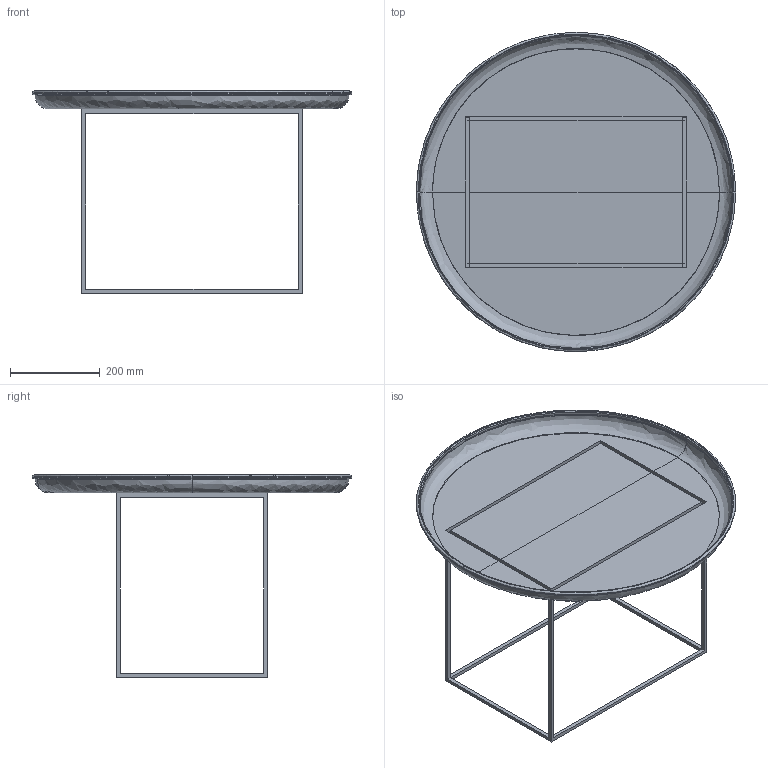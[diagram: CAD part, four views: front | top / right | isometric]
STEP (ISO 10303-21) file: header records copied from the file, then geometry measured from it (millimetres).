
FILE_DESCRIPTION(/* description */ (''),/* implementation_level */ '2;1');
FILE_NAME(/* name */ 'Duke-Coffee-Table_Medium_NORR11',/* time_stamp */ '2024-09-27T11:18:10+02:00',/* author */ (''),/* organization */ (''),/* preprocessor_version */ 'ST-DEVELOPER v19.2',/* originating_system */ 'Rhino 8.11',/* authorisation */ '');
FILE_SCHEMA (('CONFIG_CONTROL_DESIGN'));
Length unit declared in the file: millimetre
Products named in the file (1): Document
Bounding box: 711.02 x 711.02 x 449.87 mm (x, y, z)
Surface area: 715944.2 mm2 (no closed solid volume)
Topology: 0 solids, 2 shells, 55 faces, 134 edges, 76 vertices
Faces by surface type: plane 35, bspline 12, cylinder 8
Entity records: 2893 total; most frequent: CARTESIAN_POINT 1785, ORIENTED_EDGE 254, EDGE_CURVE 134, B_SPLINE_CURVE_WITH_KNOTS 106, DIRECTION 103, VERTEX_POINT 76, AXIS2_PLACEMENT_3D 73, EDGE_LOOP 60
